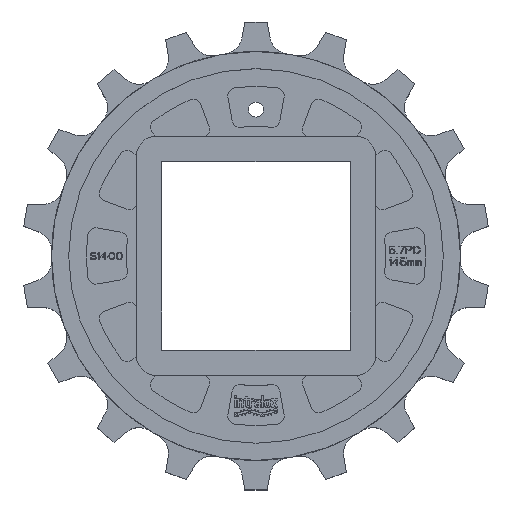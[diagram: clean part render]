
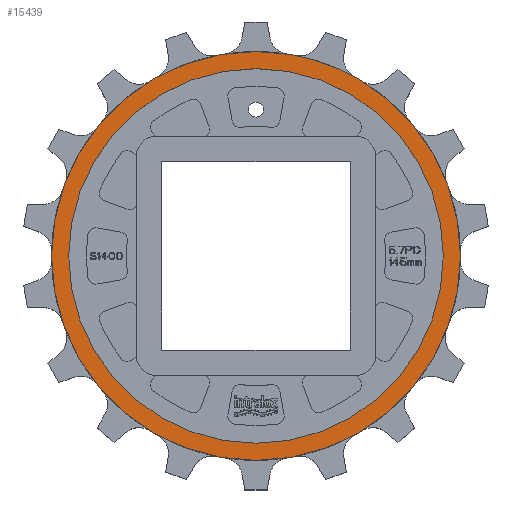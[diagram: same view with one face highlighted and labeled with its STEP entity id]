
A CAD part, top view. The second image highlights one B-rep face of the part: STEP entity #15439.
In plain terms, the highlighted planar face has unit normal (0, 0, 1).
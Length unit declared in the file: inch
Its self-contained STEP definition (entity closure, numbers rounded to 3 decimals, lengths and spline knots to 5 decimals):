
#2=CARTESIAN_POINT('',(0.,0.,0.4125));
#3=DIRECTION('',(0.,0.,1.));
#4=DIRECTION('',(0.5,0.866,0.));
#5=AXIS2_PLACEMENT_3D('',#2,#3,#4);
#7=CARTESIAN_POINT('',(0.,0.,0.4125));
#8=DIRECTION('',(0.,0.,1.));
#9=DIRECTION('',(1.,0.,0.));
#10=AXIS2_PLACEMENT_3D('',#7,#8,#9);
#12=CARTESIAN_POINT('',(0.,0.,0.4125));
#13=DIRECTION('',(0.,0.,1.));
#14=DIRECTION('',(-1.,0.,0.));
#15=AXIS2_PLACEMENT_3D('',#12,#13,#14);
#22=CARTESIAN_POINT('',(0.,0.,0.4125));
#23=DIRECTION('',(0.,0.,1.));
#24=DIRECTION('',(0.174,0.985,0.));
#25=AXIS2_PLACEMENT_3D('',#22,#23,#24);
#11786=CARTESIAN_POINT('',(1.282,2.22049,0.4125));
#11787=CARTESIAN_POINT('',(0.44523,2.52504,0.4125));
#11788=VERTEX_POINT('',#11786);
#11789=VERTEX_POINT('',#11787);
#11818=CARTESIAN_POINT('',(2.349,0.,0.4125));
#11819=CARTESIAN_POINT('',(-2.349,0.,0.4125));
#11820=VERTEX_POINT('',#11818);
#11821=VERTEX_POINT('',#11819);
#15422=CARTESIAN_POINT('',(0.,0.,0.4125));
#15423=DIRECTION('',(0.,0.,1.));
#15424=DIRECTION('',(1.,0.,0.));
#15425=AXIS2_PLACEMENT_3D('',#15422,#15423,#15424);
#15426=PLANE('',#15425);
#15428=ORIENTED_EDGE('',*,*,#15427,.F.);
#15430=ORIENTED_EDGE('',*,*,#15429,.F.);
#15431=EDGE_LOOP('',(#15428,#15430));
#15432=FACE_OUTER_BOUND('',#15431,.F.);
#15434=ORIENTED_EDGE('',*,*,#15433,.T.);
#15436=ORIENTED_EDGE('',*,*,#15435,.T.);
#15437=EDGE_LOOP('',(#15434,#15436));
#15438=FACE_BOUND('',#15437,.F.);
#15439=ADVANCED_FACE('',(#15432,#15438),#15426,.T.);
#6=CIRCLE('',#5,2.564);
#11=CIRCLE('',#10,2.349);
#16=CIRCLE('',#15,2.349);
#26=CIRCLE('',#25,2.564);
#15427=EDGE_CURVE('',#11789,#11788,#26,.T.);
#15429=EDGE_CURVE('',#11788,#11789,#6,.T.);
#15433=EDGE_CURVE('',#11820,#11821,#11,.T.);
#15435=EDGE_CURVE('',#11821,#11820,#16,.T.);
